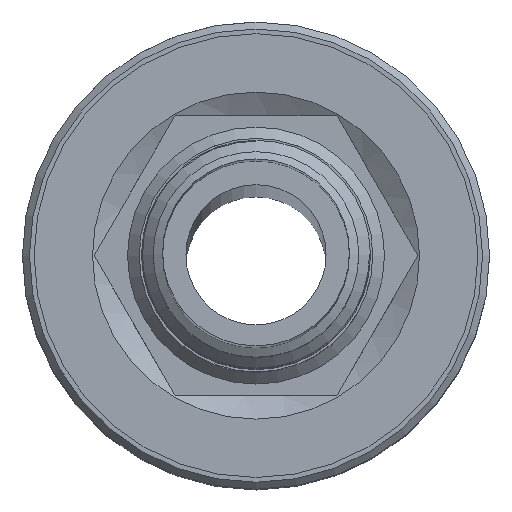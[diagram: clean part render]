
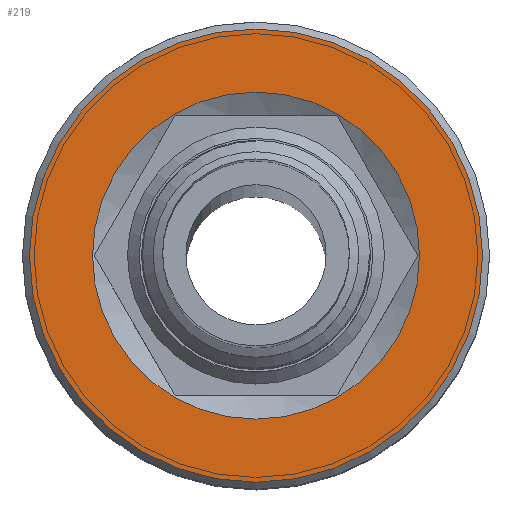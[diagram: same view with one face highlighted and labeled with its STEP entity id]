
A CAD part, top view. The second image highlights one B-rep face of the part: STEP entity #219.
In plain terms, the highlighted planar face has unit normal (0, 0, 1).
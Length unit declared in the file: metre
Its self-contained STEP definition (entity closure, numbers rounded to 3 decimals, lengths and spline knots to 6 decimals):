
#219=ADVANCED_FACE('',(#510,#511),#512,.F.);
#243=EDGE_CURVE('',#550,#550,#551,.T.);
#251=EDGE_CURVE('',#561,#561,#562,.T.);
#510=FACE_BOUND('',#906,.T.);
#511=FACE_OUTER_BOUND('',#907,.T.);
#512=PLANE('',#908);
#550=VERTEX_POINT('',#1035);
#551=CIRCLE('',#1036,0.007);
#561=VERTEX_POINT('',#1053);
#562=CIRCLE('',#1054,0.0097);
#906=EDGE_LOOP('',(#1478));
#907=EDGE_LOOP('',(#1479));
#908=AXIS2_PLACEMENT_3D('',#1480,#1481,#1482);
#1035=CARTESIAN_POINT('',(0.007,0.,-0.001));
#1036=AXIS2_PLACEMENT_3D('',#1522,#1523,#1524);
#1053=CARTESIAN_POINT('',(0.0,0.0097,-0.001));
#1054=AXIS2_PLACEMENT_3D('',#1528,#1529,#1530);
#1478=ORIENTED_EDGE('',*,*,#243,.F.);
#1479=ORIENTED_EDGE('',*,*,#251,.T.);
#1480=CARTESIAN_POINT('',(-0.00255,0.,-0.001));
#1481=DIRECTION('',(0.0,0.,-1.0));
#1482=DIRECTION('',(0.0,-1.0,0.));
#1522=CARTESIAN_POINT('',(0.0,0.,-0.001));
#1523=DIRECTION('',(0.0,0.0,1.0));
#1524=DIRECTION('',(1.0,0.0,0.0));
#1528=CARTESIAN_POINT('',(0.0,0.,-0.001));
#1529=DIRECTION('',(0.0,0.,1.0));
#1530=DIRECTION('',(0.0,1.0,0.));
